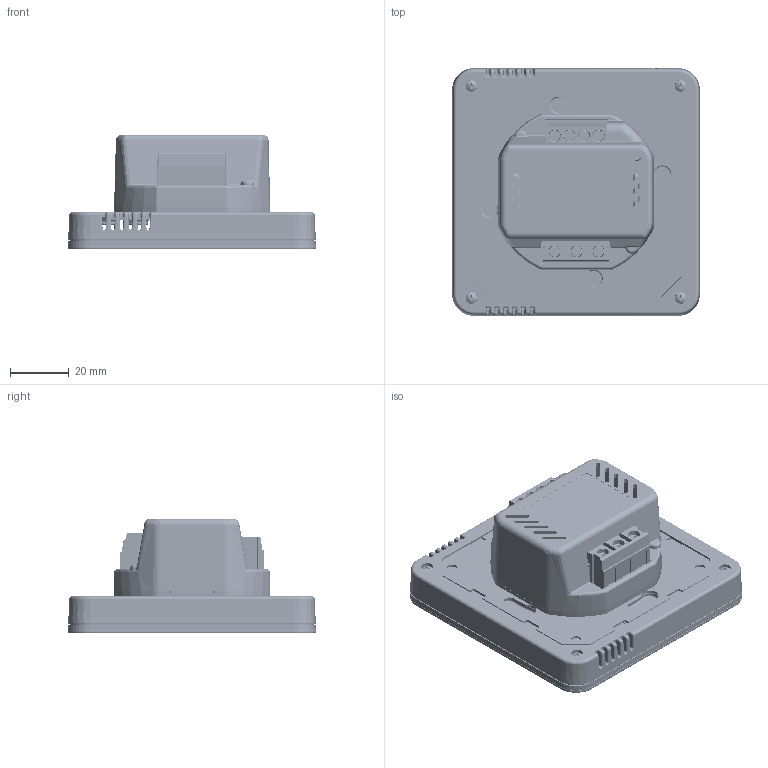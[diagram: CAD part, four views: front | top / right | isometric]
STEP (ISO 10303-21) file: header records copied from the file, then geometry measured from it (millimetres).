
FILE_DESCRIPTION(/* description */ (''),/* implementation_level */ '2;1');
FILE_NAME(/* name */ 'WS-01m.step',/* time_stamp */ '2026-01-26T21:18:05+01:00',/* author */ (''),/* organization */ (''),/* preprocessor_version */ 'ST-DEVELOPER v20.1',/* originating_system */ 'Autodesk Translation Framework v14.24.0.0',/* authorisation */ '');
FILE_SCHEMA (('AUTOMOTIVE_DESIGN { 1 0 10303 214 3 1 1 }'));
Products named in the file (19): przełącznik szklany; PŁYTKA _dotyk_podswietlana; szkło; OP-1020_C; switch kątowy cienk2i; tył klawisz; OP-1398_C; Blacha1.2; DIN ISO 7049 - C-H ST2.2 x 9.5 - C - H; LOGO; WS-01  FARBA; OP-1399_K; FOB08D880ED1gk8; OP-1020_D; PODSWIETLENIE; Wkręt do tworzyw 2,2x6; DG128-5.0-02P-14-00AH; Komponent17; Komponent18
Assembly tree (25 placements, depth 3):
  przełącznik szklany
    PŁYTKA _dotyk_podswietlana
    szkło
    OP-1020_C
    switch kątowy cienk2i
    PODSWIETLENIE  x3
    tył klawisz
      OP-1398_C
      Blacha1.2
      DIN ISO 7049 - C-H ST2.2 x 9.5 - C - H  x2
    Wkręt do tworzyw 2,2x6  x4
    LOGO
    WS-01  FARBA
    OP-1399_K
    DG128-5.0-02P-14-00AH  x2
    FOB08D880ED1gk8
    OP-1020_D
    Komponent17
    Komponent18
Bounding box: 84.5 x 84.5 x 39.02 mm (x, y, z)
Volume: 66518.6 mm3; surface area: 107450.6 mm2
Topology: 60 solids, 60 shells, 10375 faces, 29409 edges, 19375 vertices
Faces by surface type: cone 5005, plane 3357, bspline 1125, cylinder 607, torus 248, sphere 33
Full cylindrical faces by diameter (mm): 0.1 x1, 0.8 x2, 0.9 x1, 1 x6, 1.43 x4, 2 x9, 2.2 x6, 2.3 x4, 2.4 x2, 2.9 x3, 3 x1, 3.5 x4, 4 x8, 4.099 x6, 4.1 x8, 4.6 x2, 6 x1
Entity records: 224530 total; most frequent: CARTESIAN_POINT 68306, ORIENTED_EDGE 32334, DIRECTION 29323, EDGE_CURVE 16167, VERTEX_POINT 11618, LINE 10607, VECTOR 10607, AXIS2_PLACEMENT_3D 9358
